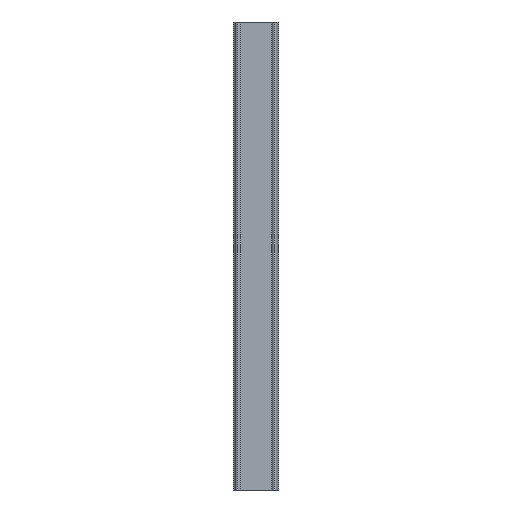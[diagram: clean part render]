
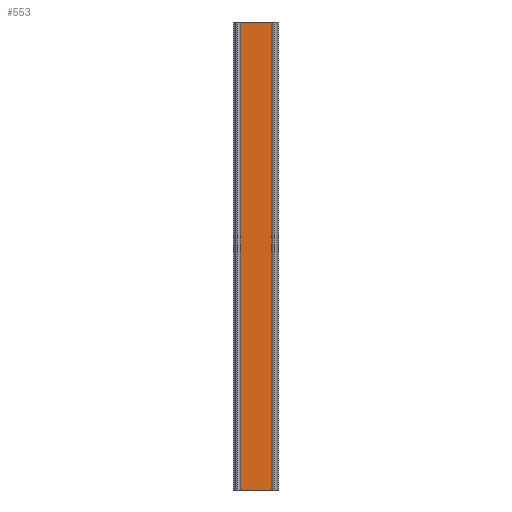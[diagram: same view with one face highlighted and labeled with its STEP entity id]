
A CAD part, front view. The second image highlights one B-rep face of the part: STEP entity #553.
In plain terms, the highlighted planar face has unit normal (0, -1, 0).
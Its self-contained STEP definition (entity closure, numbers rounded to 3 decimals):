
#14 = EDGE_CURVE ( 'NONE', #229, #656, #368, .T. ) ;
#72 = VECTOR ( 'NONE', #612, 1000. ) ;
#215 = DIRECTION ( 'NONE',  ( 1., 0., 0. ) ) ;
#229 = VERTEX_POINT ( 'NONE', #351 ) ;
#246 = VECTOR ( 'NONE', #215, 1000. ) ;
#253 = LINE ( 'NONE', #613, #72 ) ;
#280 = ORIENTED_EDGE ( 'NONE', *, *, #394, .F. ) ;
#281 = ORIENTED_EDGE ( 'NONE', *, *, #14, .F. ) ;
#310 = ORIENTED_EDGE ( 'NONE', *, *, #404, .T. ) ;
#324 = AXIS2_PLACEMENT_3D ( 'NONE', #502, #499, #506 ) ;
#351 = CARTESIAN_POINT ( 'NONE',  ( 3.348, -0.5, 50. ) ) ;
#363 = CARTESIAN_POINT ( 'NONE',  ( -3.348, -0.5, -50. ) ) ;
#368 = LINE ( 'NONE', #431, #728 ) ;
#369 = VECTOR ( 'NONE', #605, 1000. ) ;
#393 = LINE ( 'NONE', #787, #246 ) ;
#394 = EDGE_CURVE ( 'NONE', #772, #229, #562, .T. ) ;
#404 = EDGE_CURVE ( 'NONE', #772, #698, #253, .T. ) ;
#411 = CARTESIAN_POINT ( 'NONE',  ( -3.348, -0.5, 50. ) ) ;
#418 = CARTESIAN_POINT ( 'NONE',  ( 3.348, -0.5, -50. ) ) ;
#431 = CARTESIAN_POINT ( 'NONE',  ( 3.348, -0.5, 50. ) ) ;
#440 = EDGE_LOOP ( 'NONE', ( #631, #281, #280, #310 ) ) ;
#499 = DIRECTION ( 'NONE',  ( 0., 1., 0. ) ) ;
#502 = CARTESIAN_POINT ( 'NONE',  ( -3.348, -0.5, 50. ) ) ;
#504 = PLANE ( 'NONE',  #324 ) ;
#506 = DIRECTION ( 'NONE',  ( -1., 0., 0. ) ) ;
#553 = ADVANCED_FACE ( 'NONE', ( #640 ), #504, .F. ) ;
#562 = LINE ( 'NONE', #615, #369 ) ;
#605 = DIRECTION ( 'NONE',  ( 1., 0., 0. ) ) ;
#612 = DIRECTION ( 'NONE',  ( 0., 0., -1. ) ) ;
#613 = CARTESIAN_POINT ( 'NONE',  ( -3.348, -0.5, 50. ) ) ;
#615 = CARTESIAN_POINT ( 'NONE',  ( -3.348, -0.5, 50. ) ) ;
#631 = ORIENTED_EDGE ( 'NONE', *, *, #703, .T. ) ;
#640 = FACE_OUTER_BOUND ( 'NONE', #440, .T. ) ;
#656 = VERTEX_POINT ( 'NONE', #418 ) ;
#698 = VERTEX_POINT ( 'NONE', #363 ) ;
#703 = EDGE_CURVE ( 'NONE', #698, #656, #393, .T. ) ;
#728 = VECTOR ( 'NONE', #795, 1000. ) ;
#772 = VERTEX_POINT ( 'NONE', #411 ) ;
#787 = CARTESIAN_POINT ( 'NONE',  ( -3.348, -0.5, -50. ) ) ;
#795 = DIRECTION ( 'NONE',  ( 0., 0., -1. ) ) ;
